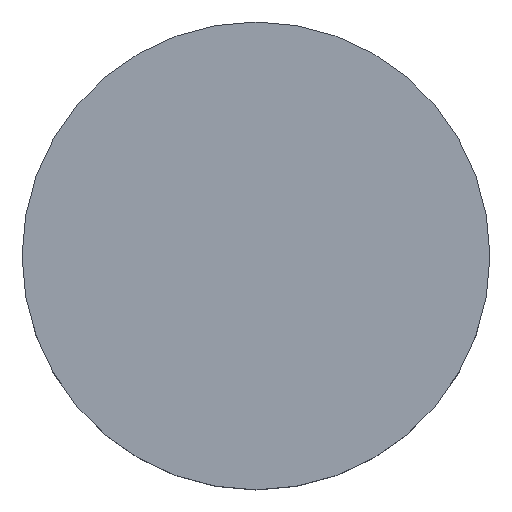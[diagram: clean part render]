
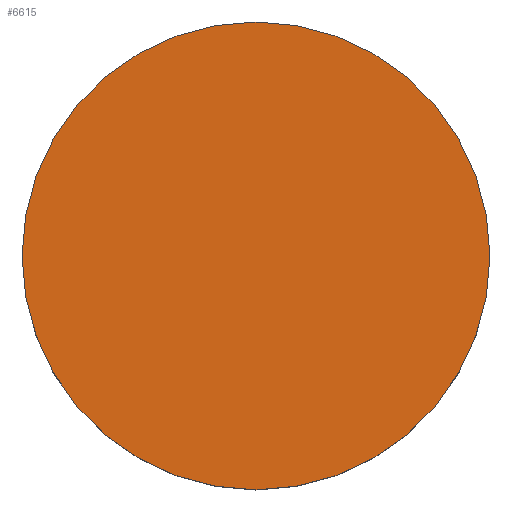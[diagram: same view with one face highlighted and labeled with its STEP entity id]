
A CAD part, top view. The second image highlights one B-rep face of the part: STEP entity #6615.
In plain terms, the highlighted planar face has unit normal (0, 0, 1).
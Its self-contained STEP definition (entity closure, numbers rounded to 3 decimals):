
#99 = EDGE_CURVE ( 'NONE', #1111, #4736, #5838, .T. ) ;
#749 = DIRECTION ( 'NONE',  ( 0., 0., 1. ) ) ;
#1111 = VERTEX_POINT ( 'NONE', #8405 ) ;
#1253 = DIRECTION ( 'NONE',  ( 1., 0., 0. ) ) ;
#1368 = AXIS2_PLACEMENT_3D ( 'NONE', #1652, #749, #8688 ) ;
#1571 = AXIS2_PLACEMENT_3D ( 'NONE', #7746, #5948, #5017 ) ;
#1652 = CARTESIAN_POINT ( 'NONE',  ( 25., 0., 0. ) ) ;
#1742 = CARTESIAN_POINT ( 'NONE',  ( -25., 0., 0. ) ) ;
#1830 = FACE_OUTER_BOUND ( 'NONE', #6082, .T. ) ;
#2170 = DIRECTION ( 'NONE',  ( 0., 0., 1. ) ) ;
#2223 = AXIS2_PLACEMENT_3D ( 'NONE', #3077, #2170, #1253 ) ;
#2579 = PLANE ( 'NONE',  #1368 ) ;
#2983 = CIRCLE ( 'NONE', #2223, 25. ) ;
#3077 = CARTESIAN_POINT ( 'NONE',  ( 0., 0., 0. ) ) ;
#3724 = ORIENTED_EDGE ( 'NONE', *, *, #4174, .T. ) ;
#4174 = EDGE_CURVE ( 'NONE', #4736, #1111, #2983, .T. ) ;
#4736 = VERTEX_POINT ( 'NONE', #1742 ) ;
#5017 = DIRECTION ( 'NONE',  ( 1., 0., 0. ) ) ;
#5838 = CIRCLE ( 'NONE', #1571, 25. ) ;
#5948 = DIRECTION ( 'NONE',  ( 0., 0., 1. ) ) ;
#6082 = EDGE_LOOP ( 'NONE', ( #7574, #3724 ) ) ;
#6615 = ADVANCED_FACE ( 'NONE', ( #1830 ), #2579, .T. ) ;
#7574 = ORIENTED_EDGE ( 'NONE', *, *, #99, .T. ) ;
#7746 = CARTESIAN_POINT ( 'NONE',  ( 0., 0., 0. ) ) ;
#8405 = CARTESIAN_POINT ( 'NONE',  ( 25., 0., 0. ) ) ;
#8688 = DIRECTION ( 'NONE',  ( 1., 0., 0. ) ) ;
